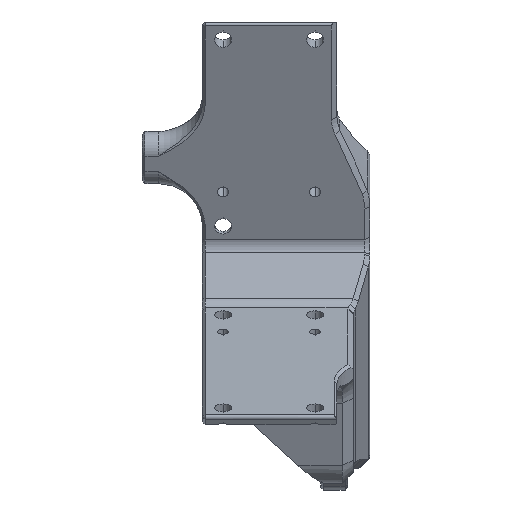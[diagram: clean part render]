
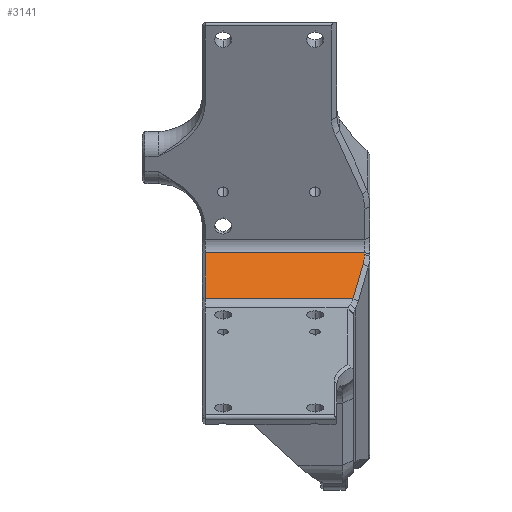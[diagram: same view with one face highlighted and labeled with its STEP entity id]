
A CAD part, left-side view. The second image highlights one B-rep face of the part: STEP entity #3141.
In plain terms, the highlighted planar face has unit normal (-0.948, 0, 0.318).
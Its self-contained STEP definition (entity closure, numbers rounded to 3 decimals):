
#205 = ORIENTED_EDGE ( 'NONE', *, *, #16503, .T. ) ;
#495 = LINE ( 'NONE', #6967, #20764 ) ;
#820 = CARTESIAN_POINT ( 'NONE',  ( -38.774, 1.087, -9.514 ) ) ;
#1090 = FACE_OUTER_BOUND ( 'NONE', #3956, .T. ) ;
#1558 = LINE ( 'NONE', #1888, #21620 ) ;
#1888 = CARTESIAN_POINT ( 'NONE',  ( -41.049, 30., -16.308 ) ) ;
#1905 = EDGE_CURVE ( 'NONE', #18799, #7476, #1558, .T. ) ;
#3141 = ADVANCED_FACE ( 'NONE', ( #1090 ), #16163, .F. ) ;
#3479 = DIRECTION ( 'NONE',  ( 0.306, -0.268, 0.914 ) ) ;
#3672 = B_SPLINE_CURVE_WITH_KNOTS ( 'NONE', 3,
 ( #14138, #820, #7745, #21191 ),
 .UNSPECIFIED., .F., .F.,
 ( 4, 4 ),
 ( 0., 1. ),
 .UNSPECIFIED. ) ;
#3713 = CARTESIAN_POINT ( 'NONE',  ( -38.246, 30.5, -7.937 ) ) ;
#3956 = EDGE_LOOP ( 'NONE', ( #7090, #21382, #9642, #205, #13455, #18801 ) ) ;
#3967 = CARTESIAN_POINT ( 'NONE',  ( -38.365, 1., -8.292 ) ) ;
#5098 = DIRECTION ( 'NONE',  ( -0.317, 0., -0.948 ) ) ;
#6214 = VECTOR ( 'NONE', #6326, 1000. ) ;
#6265 = VECTOR ( 'NONE', #3479, 1000. ) ;
#6326 = DIRECTION ( 'NONE',  ( 0.317, 0., 0.948 ) ) ;
#6377 = VERTEX_POINT ( 'NONE', #14227 ) ;
#6835 = CARTESIAN_POINT ( 'NONE',  ( -38.246, 1., -7.937 ) ) ;
#6850 = DIRECTION ( 'NONE',  ( 0., -1., 0. ) ) ;
#6967 = CARTESIAN_POINT ( 'NONE',  ( -41.049, 7., -16.308 ) ) ;
#7027 = EDGE_CURVE ( 'NONE', #7476, #7767, #495, .T. ) ;
#7090 = ORIENTED_EDGE ( 'NONE', *, *, #14305, .T. ) ;
#7476 = VERTEX_POINT ( 'NONE', #10124 ) ;
#7745 = CARTESIAN_POINT ( 'NONE',  ( -38.569, 1., -8.903 ) ) ;
#7767 = VERTEX_POINT ( 'NONE', #7907 ) ;
#7907 = CARTESIAN_POINT ( 'NONE',  ( -41.049, 3.082, -16.308 ) ) ;
#8295 = CARTESIAN_POINT ( 'NONE',  ( -32.974, -4., 7.81 ) ) ;
#8583 = CARTESIAN_POINT ( 'NONE',  ( -38.246, 30., -7.937 ) ) ;
#9642 = ORIENTED_EDGE ( 'NONE', *, *, #7027, .T. ) ;
#10124 = CARTESIAN_POINT ( 'NONE',  ( -41.049, 30., -16.308 ) ) ;
#10970 = CARTESIAN_POINT ( 'NONE',  ( -32.002, 7., 10.714 ) ) ;
#13455 = ORIENTED_EDGE ( 'NONE', *, *, #21433, .T. ) ;
#14084 = DIRECTION ( 'NONE',  ( -0.317, 0., -0.948 ) ) ;
#14138 = CARTESIAN_POINT ( 'NONE',  ( -38.965, 1.255, -10.086 ) ) ;
#14157 = DIRECTION ( 'NONE',  ( 0., 1., 0. ) ) ;
#14227 = CARTESIAN_POINT ( 'NONE',  ( -38.965, 1.255, -10.086 ) ) ;
#14305 = EDGE_CURVE ( 'NONE', #18784, #18799, #18780, .T. ) ;
#16163 = PLANE ( 'NONE',  #16339 ) ;
#16321 = LINE ( 'NONE', #19646, #6214 ) ;
#16339 = AXIS2_PLACEMENT_3D ( 'NONE', #10970, #17813, #14084 ) ;
#16503 = EDGE_CURVE ( 'NONE', #7767, #6377, #16997, .T. ) ;
#16997 = LINE ( 'NONE', #8295, #6265 ) ;
#17813 = DIRECTION ( 'NONE',  ( 0.948, 0., -0.317 ) ) ;
#18780 = LINE ( 'NONE', #3713, #21684 ) ;
#18784 = VERTEX_POINT ( 'NONE', #6835 ) ;
#18799 = VERTEX_POINT ( 'NONE', #8583 ) ;
#18801 = ORIENTED_EDGE ( 'NONE', *, *, #19430, .T. ) ;
#19039 = VERTEX_POINT ( 'NONE', #3967 ) ;
#19430 = EDGE_CURVE ( 'NONE', #19039, #18784, #16321, .T. ) ;
#19646 = CARTESIAN_POINT ( 'NONE',  ( -32.002, 1., 10.714 ) ) ;
#20764 = VECTOR ( 'NONE', #6850, 1000. ) ;
#21191 = CARTESIAN_POINT ( 'NONE',  ( -38.365, 1., -8.292 ) ) ;
#21382 = ORIENTED_EDGE ( 'NONE', *, *, #1905, .T. ) ;
#21433 = EDGE_CURVE ( 'NONE', #6377, #19039, #3672, .T. ) ;
#21620 = VECTOR ( 'NONE', #5098, 1000. ) ;
#21684 = VECTOR ( 'NONE', #14157, 1000. ) ;
